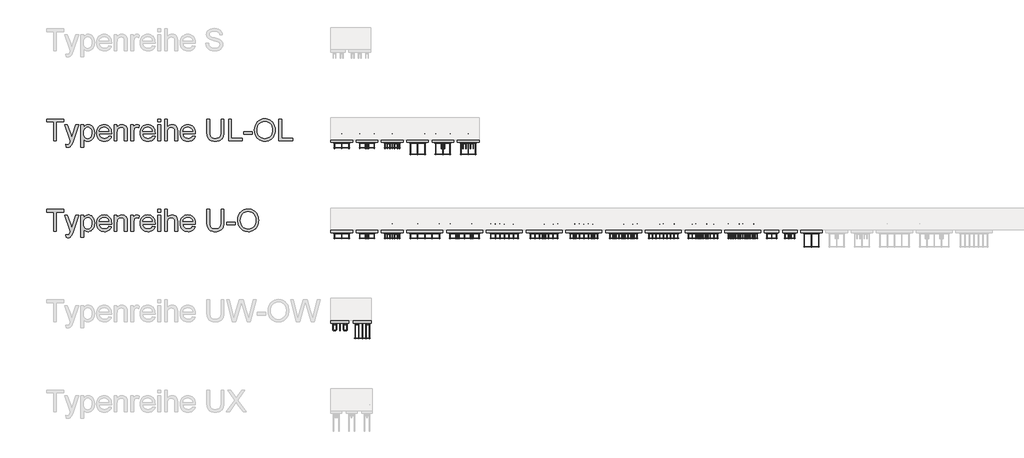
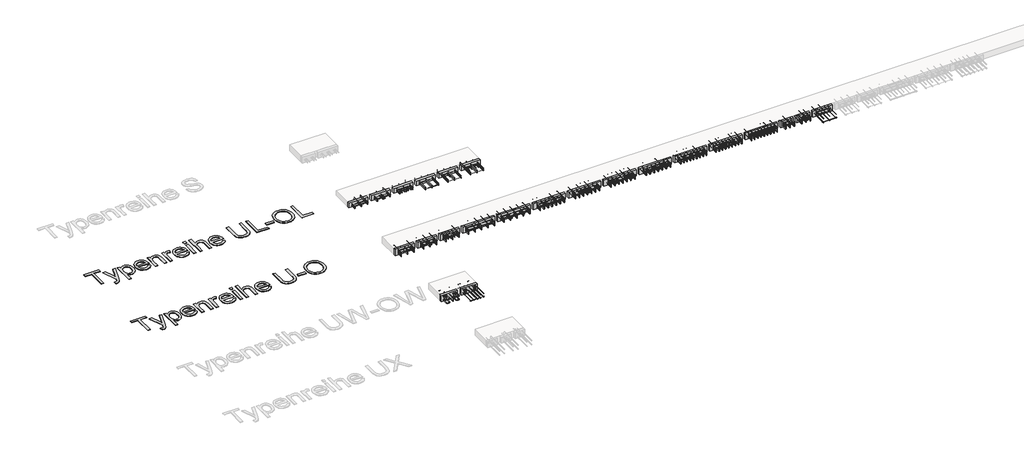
# Not in any storey, part 3 of 7: 25 proxies.
"""IFC4 building model written with IfcOpenShell, lengths in millimetres."""

from ifc_helpers import new_model, si_unit, origin, origin_with_axes, place, context, project, spatial, polyline, outline, extrude, transform, mapped, element, save
from components import generic_models_a5130629, generic_models_a2db3ab6, generic_models_825e70a4, generic_models_30aa5f48, generic_models_464901d0, generic_models_5484707d, generic_models_c893254c, generic_models_66b1b3f6, generic_models_2ea23784, generic_models_fb9e2122, generic_models_747b640e, generic_models_98fbf626, generic_models_fe60d42a, generic_models_66959c0a, generic_models_522c53e0, generic_models_25e3de61, generic_models_20547931, oa_9b1914af, ob_f7585948, oc_8440c7d6, od_33f445c9, od_3d4dff3b, ol_8fdc4615, op_9fb88730, ow_7e9b7258, ow_64ee8b05, ua_43a1cf88, ul_60ffc345, uw_d5b7e790

model = new_model("IFC4")

# Units and contexts
model_context = context("Model", 3, world=origin())
ifc_project = project(units=[si_unit("LENGTHUNIT", "METRE", prefix="MILLI")], contexts=[model_context])

# Site, building
site = spatial("IfcSite", under=ifc_project)
building = spatial("IfcBuilding", under=site)

# Proxies
placement = place(None, origin())
generic_models_shape = generic_models_a5130629(model_context)
element("IfcBuildingElementProxy", 1, Name="ACINOXplus_Typenreihe_UL-OL : OL+ S1", ObjectType="ACINOXplus_Typenreihe_UL-OL : OL+ S1", at=placement, inside=building, context=model_context, shape_type="MappedRepresentation", body=[
    mapped(generic_models_shape, transform((10889.4201887, 14552.043818, 0.0), x_axis=(0.0, -1.0, 0.0), y_axis=(1.0, 0.0, 0.0), z_axis=(0.0, 0.0, 1.0))),
])
generic_models_2_shape = generic_models_a2db3ab6(model_context)
element("IfcBuildingElementProxy", 2, Name="ACINOXplus_Typenreihe_UL-OL : OL+ S2", ObjectType="ACINOXplus_Typenreihe_UL-OL : OL+ S2", at=placement, inside=building, context=model_context, shape_type="MappedRepresentation", body=[
    mapped(generic_models_2_shape, transform((11589.4201887, 14552.043818, 0.0), x_axis=(0.0, -1.0, 0.0), y_axis=(1.0, 0.0, 0.0), z_axis=(0.0, 0.0, 1.0))),
])
generic_models_3_shape = generic_models_825e70a4(model_context)
element("IfcBuildingElementProxy", 3, Name="ACINOXplus_Typenreihe_UL-OL : UL+ S1", ObjectType="ACINOXplus_Typenreihe_UL-OL : UL+ S1", at=placement, inside=building, context=model_context, shape_type="MappedRepresentation", body=[
    mapped(generic_models_3_shape, transform((12989.4201887, 14552.043818, 0.0), x_axis=(0.0, -1.0, 0.0), y_axis=(1.0, 0.0, 0.0), z_axis=(0.0, 0.0, 1.0))),
])
generic_models_4_shape = generic_models_30aa5f48(model_context)
element("IfcBuildingElementProxy", 4, Name="ACINOXplus_Typenreihe_UL-OL : UL+ S2", ObjectType="ACINOXplus_Typenreihe_UL-OL : UL+ S2", at=placement, inside=building, context=model_context, shape_type="MappedRepresentation", body=[
    mapped(generic_models_4_shape, transform((13689.4201887, 14552.043818, 0.0), x_axis=(0.0, -1.0, 0.0), y_axis=(1.0, 0.0, 0.0), z_axis=(0.0, 0.0, 1.0))),
])
generic_models_5_shape = generic_models_464901d0(model_context)
element("IfcBuildingElementProxy", 5, Name="ACINOXplus_Typenreihe_Ux-Ox : OA+ S1", ObjectType="ACINOXplus_Typenreihe_Ux-Ox : OA+ S1", at=placement, inside=building, context=model_context, shape_type="MappedRepresentation", body=[
    mapped(generic_models_5_shape, transform((10889.4201887, 12052.043818, 0.0), x_axis=(0.0, -1.0, 0.0), y_axis=(1.0, 0.0, 0.0), z_axis=(0.0, 0.0, 1.0))),
])
generic_models_6_shape = generic_models_5484707d(model_context)
element("IfcBuildingElementProxy", 6, Name="ACINOXplus_Typenreihe_Ux-Ox : OA+ S2", ObjectType="ACINOXplus_Typenreihe_Ux-Ox : OA+ S2", at=placement, inside=building, context=model_context, shape_type="MappedRepresentation", body=[
    mapped(generic_models_6_shape, transform((11589.4201887, 12052.043818, 0.0), x_axis=(0.0, -1.0, 0.0), y_axis=(1.0, 0.0, 0.0), z_axis=(0.0, 0.0, 1.0))),
])
generic_models_7_shape = generic_models_c893254c(model_context)
element("IfcBuildingElementProxy", 7, Name="ACINOXplus_Typenreihe_Ux-Ox : OB+ S2", ObjectType="ACINOXplus_Typenreihe_Ux-Ox : OB+ S2", at=placement, inside=building, context=model_context, shape_type="MappedRepresentation", body=[
    mapped(generic_models_7_shape, transform((13590.3351296, 12052.043818, 0.0), x_axis=(0.0, -1.0, 0.0), y_axis=(1.0, 0.0, 0.0), z_axis=(0.0, 0.0, 1.0))),
])
generic_models_8_shape = generic_models_66b1b3f6(model_context)
generic_models_9_shape = generic_models_2ea23784(model_context)
element("IfcBuildingElementProxy", 8, Name="ACINOXplus_Typenreihe_Ux-Ox : OC+ S1", ObjectType="ACINOXplus_Typenreihe_Ux-Ox : OC+ S1", at=placement, inside=building, context=model_context, shape_type="MappedRepresentation", body=[
    mapped(generic_models_8_shape, transform((15790.3351296, 12052.043818, 0.0), x_axis=(0.0, -1.0, 0.0), y_axis=(1.0, 0.0, 0.0), z_axis=(0.0, 0.0, 1.0))),
    mapped(generic_models_9_shape, transform((15790.3351296, 12052.043818, 0.0), x_axis=(0.0, -1.0, 0.0), y_axis=(1.0, 0.0, 0.0), z_axis=(0.0, 0.0, 1.0))),
])
generic_models_10_shape = generic_models_fb9e2122(model_context)
generic_models_11_shape = generic_models_747b640e(model_context)
element("IfcBuildingElementProxy", 9, Name="ACINOXplus_Typenreihe_Ux-Ox : OC+ S2", ObjectType="ACINOXplus_Typenreihe_Ux-Ox : OC+ S2", at=placement, inside=building, context=model_context, shape_type="MappedRepresentation", body=[
    mapped(generic_models_10_shape, transform((16890.3351296, 12052.043818, 0.0), x_axis=(0.0, -1.0, 0.0), y_axis=(1.0, 0.0, 0.0), z_axis=(0.0, 0.0, 1.0))),
    mapped(generic_models_11_shape, transform((16890.3351296, 12052.043818, 0.0), x_axis=(0.0, -1.0, 0.0), y_axis=(1.0, 0.0, 0.0), z_axis=(0.0, 0.0, 1.0))),
])
generic_models_12_shape = generic_models_98fbf626(model_context)
element("IfcBuildingElementProxy", 10, Name="ACINOXplus_Typenreihe_Ux-Ox : OC+ S3", ObjectType="ACINOXplus_Typenreihe_Ux-Ox : OC+ S3", at=placement, inside=building, context=model_context, shape_type="MappedRepresentation", body=[
    mapped(generic_models_12_shape, transform((17990.3351296, 12052.043818, 0.0), x_axis=(0.0, -1.0, 0.0), y_axis=(1.0, 0.0, 0.0), z_axis=(0.0, 0.0, 1.0))),
    mapped(generic_models_11_shape, transform((17990.3351296, 12052.043818, 0.0), x_axis=(0.0, -1.0, 0.0), y_axis=(1.0, 0.0, 0.0), z_axis=(0.0, 0.0, 1.0))),
])
generic_models_13_shape = generic_models_fe60d42a(model_context)
generic_models_14_shape = generic_models_66959c0a(model_context)
element("IfcBuildingElementProxy", 11, Name="ACINOXplus_Typenreihe_Ux-Ox : OD+ S2", ObjectType="ACINOXplus_Typenreihe_Ux-Ox : OD+ S2", at=placement, inside=building, context=model_context, shape_type="MappedRepresentation", body=[
    mapped(generic_models_13_shape, transform((20190.3351296, 12052.043818, 0.0), x_axis=(0.0, -1.0, 0.0), y_axis=(1.0, 0.0, 0.0), z_axis=(0.0, 0.0, 1.0))),
    mapped(generic_models_14_shape, transform((20190.3351296, 12052.043818, 0.0), x_axis=(0.0, -1.0, 0.0), y_axis=(1.0, 0.0, 0.0), z_axis=(0.0, 0.0, 1.0))),
])
generic_models_15_shape = generic_models_522c53e0(model_context)
generic_models_16_shape = generic_models_25e3de61(model_context)
element("IfcBuildingElementProxy", 12, Name="ACINOXplus_Typenreihe_Ux-Ox : OD+ S4", ObjectType="ACINOXplus_Typenreihe_Ux-Ox : OD+ S4", at=placement, inside=building, context=model_context, shape_type="MappedRepresentation", body=[
    mapped(generic_models_15_shape, transform((21290.3351296, 12052.043818, 0.0), x_axis=(0.0, -1.0, 0.0), y_axis=(1.0, 0.0, 0.0), z_axis=(0.0, 0.0, 1.0))),
    mapped(generic_models_16_shape, transform((21290.3351296, 12052.043818, 0.0), x_axis=(0.0, -1.0, 0.0), y_axis=(1.0, 0.0, 0.0), z_axis=(0.0, 0.0, 1.0))),
])
generic_models_17_shape = generic_models_20547931(model_context)
element("IfcBuildingElementProxy", 13, Name="ACINOXplus_Typenreihe_Ux-Ox : OP+ S1", ObjectType="ACINOXplus_Typenreihe_Ux-Ox : OP+ S1", at=placement, inside=building, context=model_context, shape_type="MappedRepresentation", body=[
    mapped(generic_models_17_shape, transform((22590.3351296, 12052.043818, 0.0), x_axis=(0.0, -1.0, 0.0), y_axis=(1.0, 0.0, 0.0), z_axis=(0.0, 0.0, 1.0))),
])
element("IfcBuildingElementProxy", 14, Name="600mm Arial", ObjectType="600mm Arial", at=placement, inside=building, context=model_context, shape_type="SweptSolid", body=[
    extrude(outline(polyline([(2216.6089188, 14553.4767112), (2216.6089188, 15080.8723395), (2018.8355582, 15080.8723395), (2018.8355582, 15156.2145721), (2489.724512, 15156.2145721), (2489.724512, 15080.8723395), (2291.9511514, 15080.8723395), (2291.9511514, 14553.4767112), (2216.6089188, 14553.4767112)])), origin_with_axes(), (0.0, 0.0, 1.0), 10.0),
    extrude(outline(polyline([(2565.0667446, 14383.9566879), (2555.6489655, 14456.5030173), (2593.908693, 14449.8811414), (2614.0318381, 14451.9596747), (2629.6668229, 14458.1952745), (2641.843717, 14468.1464825), (2651.5925899, 14481.3718402), (2672.1939816, 14536.8484451), (2678.0800935, 14555.095392), (2517.9778492, 14996.1123278), (2597.4403602, 14996.1123278), (2682.3475247, 14750.3671551), (2711.9252371, 14652.0690859), (2741.5029495, 14738.8892368), (2828.7645587, 14996.1123278), (2907.6384585, 14996.1123278), (2753.5694789, 14542.8817098), (2713.5439178, 14444.5836407), (2693.0528907, 14413.2033065), (2669.8395368, 14391.4614806), (2642.8737866, 14378.7695517), (2611.1255704, 14374.5389088), (2589.3101681, 14376.8933535), (2565.0667446, 14383.9566879)])), origin_with_axes(), (0.0, 0.0, 1.0), 10.0),
    extrude(outline(polyline([(2970.0312449, 14383.9566879), (2970.0312449, 14996.1123278), (3045.3734775, 14996.1123278), (3045.3734775, 14922.2416232), (3069.9479948, 14958.6803348), (3097.465568, 14984.707986), (3129.544878, 15000.3245767), (3167.8046055, 15005.5301069), (3194.080577, 15003.709091), (3218.7562618, 14998.2460434), (3241.83166, 14989.140964), (3263.3067714, 14976.3938529), (3282.7125467, 14960.3358038), (3299.5799362, 14941.2979105), (3313.9089399, 14919.2801731), (3325.6995578, 14894.2825916), (3341.4816954, 14838.7691985), (3346.7424079, 14778.1790339), (3340.8011137, 14713.7445024), (3333.3744959, 14684.079418), (3322.9772311, 14656.1157879), (3309.7518733, 14630.5847774), (3293.840977, 14608.2175521), (3275.2445422, 14589.014112), (3253.9625688, 14572.974457), (3231.0389219, 14560.3239149), (3207.5174669, 14551.2878134), (3183.3982036, 14545.8661525), (3158.681132, 14544.0589322), (3124.0450422, 14548.8965804), (3093.1245605, 14563.4095251), (3066.6554509, 14585.3168979), (3045.3734775, 14612.3378305), (3045.3734775, 14383.9566879), (2970.0312449, 14383.9566879)]), holes=[polyline([(3045.3734775, 14771.2628524), (3047.410624, 14734.9528995), (3053.5220637, 14703.7197181), (3063.7077964, 14677.5633082), (3077.9678223, 14656.4836699), (3095.1341159, 14640.2600739), (3114.0386519, 14628.671791), (3134.6814303, 14621.7188213), (3157.0624512, 14619.4011648), (3179.7653689, 14621.8015948), (3200.7852264, 14629.0028848), (3220.1220237, 14641.0050349), (3237.775761, 14657.8080451), (3252.4864423, 14679.6510385), (3262.9940717, 14706.7731386), (3269.2986494, 14739.1743453), (3271.4001753, 14776.8546587), (3269.3492332, 14812.8519119), (3263.1964068, 14844.029911), (3252.9416962, 14870.388656), (3238.5851014, 14891.9281468), (3221.377421, 14908.6667776), (3202.569454, 14920.6229424), (3182.1612004, 14927.7966413), (3160.15266, 14930.1878743), (3138.2130975, 14927.64489), (3117.570319, 14920.0159371), (3098.2243246, 14907.3010157), (3080.1751142, 14889.5001256), (3064.9493982, 14866.8523903), (3054.0738867, 14839.596933), (3047.5485798, 14807.7337537), (3045.3734775, 14771.2628524)])]), origin_with_axes(), (0.0, 0.0, 1.0), 10.0),
    extrude(outline(polyline([(3741.4062124, 14685.3256183), (3815.276917, 14675.9078392), (3803.9507501, 14646.3209298), (3788.6606546, 14620.2472934), (3769.4066307, 14597.68693), (3746.1886783, 14578.6398397), (3719.2459207, 14563.5106927), (3688.8174812, 14552.704159), (3654.9033597, 14546.2202389), (3617.5035564, 14544.0589322), (3570.7549519, 14547.7883359), (3529.101513, 14558.9765471), (3492.5432397, 14577.6235657), (3461.080132, 14603.7293918), (3435.7790478, 14636.5674584), (3417.7068448, 14675.4111985), (3406.863523, 14720.2606123), (3403.2490824, 14771.1156996), (3406.9003112, 14823.6952337), (3417.8539976, 14870.0391681), (3436.1101416, 14910.1475026), (3461.6687432, 14944.0202373), (3493.0490774, 14970.9308053), (3528.7704192, 14990.1526395), (3568.8327684, 15001.6857401), (3613.2361252, 15005.5301069), (3656.2093408, 15001.6949371), (3695.0714751, 14990.1894277), (3729.822528, 14971.0135787), (3760.4624997, 14944.1673901), (3785.4738769, 14910.3682318), (3803.3391463, 14870.3334737), (3814.0583079, 14824.0631157), (3817.6313618, 14771.557158), (3817.1899034, 14751.2500718), (3478.591315, 14751.2500718), (3482.9553152, 14721.1849158), (3491.6327317, 14694.853762), (3504.6235647, 14672.2566104), (3521.927814, 14653.3934611), (3542.5889866, 14638.5218315), (3565.6505892, 14627.8992389), (3591.1126218, 14621.5256833), (3618.9750844, 14619.4011648), (3659.0742218, 14623.3375021), (3692.845789, 14635.1465142), (3720.2897858, 14655.5639649), (3741.4062124, 14685.3256183)]), holes=[polyline([(3478.591315, 14826.5923045), (3742.2891292, 14826.5923045), (3732.0987979, 14866.3971363), (3723.3340094, 14882.0505152), (3712.1228056, 14894.8712028), (3691.5765961, 14910.3222466), (3668.1976953, 14921.3587064), (3641.9861032, 14927.9805823), (3612.9418197, 14930.1878743), (3586.4497175, 14928.4266392), (3562.1557102, 14923.1429341), (3540.0597979, 14914.3367588), (3520.1619805, 14902.0081135), (3503.4647364, 14886.7272151), (3490.9705442, 14869.0642808), (3482.6794037, 14849.0193106), (3478.591315, 14826.5923045)])]), origin_with_axes(), (0.0, 0.0, 1.0), 10.0),
    extrude(outline(polyline([(3892.9735944, 14553.4767112), (3892.9735944, 14996.1123278), (3968.315827, 14996.1123278), (3968.315827, 14934.3081526), (3994.490631, 14965.4677576), (4025.9261474, 14987.7246183), (4062.6223765, 15001.0787348), (4104.579318, 15005.5301069), (4141.7170054, 15001.9432575), (4175.7276959, 14991.1827091), (4204.0913977, 14974.5912311), (4224.2881192, 14953.5115928), (4237.9917236, 14927.9989764), (4246.8760737, 14898.1085643), (4250.8491993, 14825.2679293), (4250.8491993, 14553.4767112), (4175.5069667, 14553.4767112), (4175.5069667, 14815.1143862), (4173.3364629, 14854.0730895), (4166.8249516, 14881.7746037), (4154.8136044, 14901.6218374), (4136.1435932, 14917.0176989), (4112.2128694, 14926.8953304), (4084.4193847, 14930.1878743), (4061.5417231, 14928.3392673), (4040.2919394, 14922.7934462), (4020.6700334, 14913.5504111), (4002.6760053, 14900.6101619), (3987.6434273, 14882.5011707), (3976.9058716, 14857.7519094), (3970.4633381, 14826.3623782), (3968.315827, 14788.332577), (3968.315827, 14553.4767112), (3892.9735944, 14553.4767112)])), origin_with_axes(), (0.0, 0.0, 1.0), 10.0),
    extrude(outline(polyline([(4354.4447691, 14553.4767112), (4354.4447691, 14996.1123278), (4420.3692227, 14996.1123278), (4420.3692227, 14930.6293327), (4444.7230107, 14968.5947546), (4467.1638125, 14990.9619799), (4489.6781906, 15001.8880752), (4514.2527078, 15005.5301069), (4551.7766713, 14999.7175714), (4589.889246, 14982.2799648), (4564.7261176, 14914.7368305), (4538.2386139, 14926.3251133), (4511.7511103, 14930.1878743), (4489.2551263, 14926.4722661), (4469.1503752, 14915.3254417), (4452.9083851, 14897.5935295), (4442.000684, 14874.1226582), (4432.8404223, 14832.036958), (4429.7870017, 14786.125285), (4429.7870017, 14553.4767112), (4354.4447691, 14553.4767112)])), origin_with_axes(), (0.0, 0.0, 1.0), 10.0),
    extrude(outline(polyline([(4946.8819342, 14685.3256183), (5020.7526388, 14675.9078392), (5009.4264719, 14646.3209298), (4994.1363764, 14620.2472934), (4974.8823525, 14597.68693), (4951.6644001, 14578.6398397), (4924.7216425, 14563.5106927), (4894.293203, 14552.704159), (4860.3790815, 14546.2202389), (4822.9792782, 14544.0589322), (4776.2306737, 14547.7883359), (4734.5772347, 14558.9765471), (4698.0189615, 14577.6235657), (4666.5558538, 14603.7293918), (4641.2547696, 14636.5674584), (4623.1825666, 14675.4111985), (4612.3392448, 14720.2606123), (4608.7248042, 14771.1156996), (4612.376033, 14823.6952337), (4623.3297194, 14870.0391681), (4641.5858634, 14910.1475026), (4667.144465, 14944.0202373), (4698.5247992, 14970.9308053), (4734.246141, 14990.1526395), (4774.3084902, 15001.6857401), (4818.711847, 15005.5301069), (4861.6850626, 15001.6949371), (4900.5471969, 14990.1894277), (4935.2982498, 14971.0135787), (4965.9382215, 14944.1673901), (4990.9495987, 14910.3682318), (5008.8148681, 14870.3334737), (5019.5340297, 14824.0631157), (5023.1070836, 14771.557158), (5022.6656252, 14751.2500718), (4684.0670368, 14751.2500718), (4688.431037, 14721.1849158), (4697.1084535, 14694.853762), (4710.0992865, 14672.2566104), (4727.4035358, 14653.3934611), (4748.0647084, 14638.5218315), (4771.126311, 14627.8992389), (4796.5883436, 14621.5256833), (4824.4508062, 14619.4011648), (4864.5499436, 14623.3375021), (4898.3215108, 14635.1465142), (4925.7655076, 14655.5639649), (4946.8819342, 14685.3256183)]), holes=[polyline([(4684.0670368, 14826.5923045), (4947.764851, 14826.5923045), (4937.5745197, 14866.3971363), (4928.8097312, 14882.0505152), (4917.5985273, 14894.8712028), (4897.0523179, 14910.3222466), (4873.6734171, 14921.3587064), (4847.461825, 14927.9805823), (4818.4175414, 14930.1878743), (4791.9254393, 14928.4266392), (4767.631432, 14923.1429341), (4745.5355197, 14914.3367588), (4725.6377023, 14902.0081135), (4708.9404582, 14886.7272151), (4696.4462659, 14869.0642808), (4688.1551255, 14849.0193106), (4684.0670368, 14826.5923045)])]), origin_with_axes(), (0.0, 0.0, 1.0), 10.0),
    extrude(outline(polyline([(5098.4493162, 15080.8723395), (5098.4493162, 15156.2145721), (5173.7915488, 15156.2145721), (5173.7915488, 15080.8723395), (5098.4493162, 15080.8723395)])), origin_with_axes(), (0.0, 0.0, 1.0), 10.0),
    extrude(outline(polyline([(5098.4493162, 14553.4767112), (5098.4493162, 14996.1123278), (5173.7915488, 14996.1123278), (5173.7915488, 14553.4767112), (5098.4493162, 14553.4767112)])), origin_with_axes(), (0.0, 0.0, 1.0), 10.0),
    extrude(outline(polyline([(5286.8048977, 14553.4767112), (5286.8048977, 15156.2145721), (5362.1471303, 15156.2145721), (5362.1471303, 14934.6024582), (5389.8210534, 14965.6333045), (5420.8978849, 14987.7981947), (5455.3776249, 15001.0971289), (5493.2602734, 15005.5301069), (5538.7672762, 15000.6924587), (5577.8731323, 14986.179514), (5608.6648553, 14963.131707), (5629.2294588, 14932.6894719), (5640.8177417, 14890.861289), (5644.6805026, 14833.6556388), (5644.6805026, 14553.4767112), (5569.33827, 14553.4767112), (5569.33827, 14825.8565405), (5567.8391509, 14851.2955804), (5563.3417935, 14873.0190122), (5555.8461978, 14891.0268359), (5545.3523639, 14905.3190514), (5532.1086121, 14916.1991614), (5516.3632627, 14923.9706686), (5498.1163157, 14928.6335729), (5477.3677712, 14930.1878743), (5445.5275845, 14925.9940195), (5415.6371724, 14913.4124553), (5390.8787141, 14893.6571922), (5374.434389, 14867.9422407), (5365.218945, 14833.7660034), (5362.1471303, 14788.6268826), (5362.1471303, 14553.4767112), (5286.8048977, 14553.4767112)])), origin_with_axes(), (0.0, 0.0, 1.0), 10.0),
    extrude(outline(polyline([(6058.1798652, 14685.3256183), (6132.0505698, 14675.9078392), (6120.7244029, 14646.3209298), (6105.4343075, 14620.2472934), (6086.1802836, 14597.68693), (6062.9623311, 14578.6398397), (6036.0195735, 14563.5106927), (6005.591134, 14552.704159), (5971.6770126, 14546.2202389), (5934.2772092, 14544.0589322), (5887.5286047, 14547.7883359), (5845.8751658, 14558.9765471), (5809.3168925, 14577.6235657), (5777.8537849, 14603.7293918), (5752.5527007, 14636.5674584), (5734.4804976, 14675.4111985), (5723.6371758, 14720.2606123), (5720.0227352, 14771.1156996), (5723.673964, 14823.6952337), (5734.6276504, 14870.0391681), (5752.8837944, 14910.1475026), (5778.4423961, 14944.0202373), (5809.8227303, 14970.9308053), (5845.544072, 14990.1526395), (5885.6064213, 15001.6857401), (5930.0097781, 15005.5301069), (5972.9829936, 15001.6949371), (6011.8451279, 14990.1894277), (6046.5961809, 14971.0135787), (6077.2361525, 14944.1673901), (6102.2475297, 14910.3682318), (6120.1127991, 14870.3334737), (6130.8319607, 14824.0631157), (6134.4050146, 14771.557158), (6133.9635562, 14751.2500718), (5795.3649678, 14751.2500718), (5799.728968, 14721.1849158), (5808.4063846, 14694.853762), (5821.3972175, 14672.2566104), (5838.7014669, 14653.3934611), (5859.3626394, 14638.5218315), (5882.424242, 14627.8992389), (5907.8862746, 14621.5256833), (5935.7487372, 14619.4011648), (5975.8478747, 14623.3375021), (6009.6194418, 14635.1465142), (6037.0634387, 14655.5639649), (6058.1798652, 14685.3256183)]), holes=[polyline([(5795.3649678, 14826.5923045), (6059.062782, 14826.5923045), (6048.8724507, 14866.3971363), (6040.1076622, 14882.0505152), (6028.8964584, 14894.8712028), (6008.3502489, 14910.3222466), (5984.9713482, 14921.3587064), (5958.759756, 14927.9805823), (5929.7154725, 14930.1878743), (5903.2233703, 14928.4266392), (5878.929363, 14923.1429341), (5856.8334507, 14914.3367588), (5836.9356333, 14902.0081135), (5820.2383892, 14886.7272151), (5807.744197, 14869.0642808), (5799.4530565, 14849.0193106), (5795.3649678, 14826.5923045)])]), origin_with_axes(), (0.0, 0.0, 1.0), 10.0),
    extrude(outline(polyline([(6850.1562244, 15156.2145721), (6925.498457, 15156.2145721), (6925.498457, 14808.4925103), (6920.3848973, 14727.0618307), (6913.9929476, 14693.3684384), (6905.0442181, 14664.3563446), (6892.7661565, 14638.9265017), (6876.3862107, 14615.9798622), (6855.9043806, 14595.5164262), (6831.3206663, 14577.5361937), (6802.6074765, 14562.8898918), (6769.7372203, 14552.4282475), (6732.7098975, 14546.151261), (6691.5255081, 14544.0589322), (6651.3573927, 14545.879948), (6615.0244472, 14551.3429957), (6582.5266714, 14560.448075), (6553.8640655, 14573.1951862), (6529.0320308, 14589.3957895), (6508.0259689, 14608.8613456), (6490.8458797, 14631.5918544), (6477.4917633, 14657.5873159), (6467.4807745, 14687.7398439), (6460.3300682, 14722.9415523), (6456.0396445, 14763.1924411), (6454.6095032, 14808.4925103), (6454.6095032, 15156.2145721), (6529.9517358, 15156.2145721), (6529.9517358, 14811.1412607), (6533.667344, 14743.4325794), (6544.8141684, 14696.2885018), (6553.5789569, 14678.910676), (6565.0108899, 14663.6389747), (6579.1099674, 14650.4733978), (6595.8761893, 14639.4139453), (6636.1224796, 14624.4043599), (6684.4621738, 14619.4011648), (6725.986854, 14621.8751712), (6761.0919934, 14629.2971904), (6789.777592, 14641.6672225), (6812.0436497, 14658.9852674), (6828.7179011, 14683.3390555), (6840.6280807, 14716.8163171), (6847.7741885, 14759.4170521), (6850.1562244, 14811.1412607), (6850.1562244, 15156.2145721)])), origin_with_axes(), (0.0, 0.0, 1.0), 10.0),
    extrude(outline(polyline([(7057.3473641, 14553.4767112), (7057.3473641, 15156.2145721), (7132.6895967, 15156.2145721), (7132.6895967, 14628.8189438), (7434.0585272, 14628.8189438), (7434.0585272, 14553.4767112), (7057.3473641, 14553.4767112)])), origin_with_axes(), (0.0, 0.0, 1.0), 10.0),
    extrude(outline(polyline([(7471.7296435, 14732.4145137), (7471.7296435, 14807.7567463), (7707.1741204, 14807.7567463), (7707.1741204, 14732.4145137), (7471.7296435, 14732.4145137)])), origin_with_axes(), (0.0, 0.0, 1.0), 10.0),
    extrude(outline(polyline([(7773.0985739, 14846.8993906), (7778.1201631, 14917.597113), (7793.1849308, 14980.1830374), (7818.292877, 15034.6571639), (7834.613042, 15058.8523028), (7853.4440017, 15081.0194923), (7896.5321803, 15118.0376181), (7945.4512887, 15144.4791365), (8000.2013266, 15160.3440475), (8060.7822941, 15165.6323512), (8101.3320871, 15163.1491477), (8139.8401349, 15155.6995373), (8176.3064377, 15143.28352), (8210.7309954, 15125.9010957), (8242.1481178, 15104.0764964), (8269.5921146, 15078.3339538), (8293.0629859, 15048.6734679), (8312.5607316, 15015.0950388), (8327.8830167, 14978.3620216), (8338.8275061, 14939.2377714), (8345.3941997, 14897.7222882), (8347.5830976, 14853.8155721), (8345.2792366, 14809.3294418), (8338.3676536, 14767.2529386), (8326.8483486, 14727.5860625), (8310.7213217, 14690.3288134), (8290.3682503, 14656.4652758), (8266.170812, 14626.9795339), (8238.129007, 14601.8715877), (8206.242835, 14581.1414373), (8171.7676936, 14564.9178413), (8135.9589799, 14553.3295584), (8098.8166939, 14546.3765887), (8060.3408357, 14544.0589322), (8019.08287, 14546.6203105), (7980.0689844, 14554.3044457), (7943.299179, 14567.1113377), (7908.7734537, 14585.0409864), (7877.3931195, 14607.3990147), (7850.0594873, 14633.4910452), (7826.772557, 14663.3170779), (7807.5323287, 14696.877113), (7792.467561, 14732.8237824), (7781.7070126, 14769.8097185), (7775.2506836, 14807.8349212), (7773.0985739, 14846.8993906)]), holes=[polyline([(7848.4408065, 14846.1636266), (7852.2069984, 14796.2144487), (7863.5055742, 14751.8754712), (7882.3365339, 14713.1466942), (7908.6998773, 14680.0281176), (7940.7469976, 14653.5038257), (7976.6292877, 14634.557903), (8016.3467476, 14623.1903493), (8059.8993774, 14619.4011648), (8104.1969681, 14623.2271375), (8144.3834775, 14634.7050558), (8180.4589057, 14653.8349195), (8212.4232526, 14680.6167288), (8238.593458, 14714.4342812), (8257.2864619, 14754.6713744), (8268.5022642, 14801.3280084), (8272.240865, 14854.4041833), (8270.6405783, 14888.8839233), (8265.8397183, 14921.101189), (8257.8382849, 14951.0559805), (8246.6362781, 14978.7482977), (8232.3578582, 15003.8148571), (8215.1271852, 15025.8923753), (8194.9442593, 15044.9808524), (8171.8090803, 15061.0802882), (8146.4390182, 15073.859589), (8119.5514429, 15082.987661), (8091.1463543, 15088.4645042), (8061.2237525, 15090.2901186), (8019.1840375, 15086.772247), (7980.179349, 15076.2186323), (7944.2096869, 15058.6292744), (7911.2750513, 15034.0041733), (7883.7850692, 15001.1569097), (7864.1493677, 14958.901064), (7852.3679468, 14907.2366363), (7848.4408065, 14846.1636266)])]), origin_with_axes(), (0.0, 0.0, 1.0), 10.0),
    extrude(outline(polyline([(8451.1786674, 14553.4767112), (8451.1786674, 15156.2145721), (8526.5209, 15156.2145721), (8526.5209, 14628.8189438), (8827.8898305, 14628.8189438), (8827.8898305, 14553.4767112), (8451.1786674, 14553.4767112)])), origin_with_axes(), (0.0, 0.0, 1.0), 10.0),
])
element("IfcBuildingElementProxy", 15, Name="600mm Arial", ObjectType="600mm Arial", at=placement, inside=building, context=model_context, shape_type="SweptSolid", body=[
    extrude(outline(polyline([(2216.6089188, 12053.4767112), (2216.6089188, 12580.8723395), (2018.8355582, 12580.8723395), (2018.8355582, 12656.2145721), (2489.724512, 12656.2145721), (2489.724512, 12580.8723395), (2291.9511514, 12580.8723395), (2291.9511514, 12053.4767112), (2216.6089188, 12053.4767112)])), origin_with_axes(), (0.0, 0.0, 1.0), 10.0),
    extrude(outline(polyline([(2565.0667446, 11883.9566879), (2555.6489655, 11956.5030173), (2593.908693, 11949.8811414), (2614.0318381, 11951.9596747), (2629.6668229, 11958.1952745), (2641.843717, 11968.1464825), (2651.5925899, 11981.3718402), (2672.1939816, 12036.8484451), (2678.0800935, 12055.095392), (2517.9778492, 12496.1123278), (2597.4403602, 12496.1123278), (2682.3475247, 12250.3671551), (2711.9252371, 12152.0690859), (2741.5029495, 12238.8892368), (2828.7645587, 12496.1123278), (2907.6384585, 12496.1123278), (2753.5694789, 12042.8817098), (2713.5439178, 11944.5836407), (2693.0528907, 11913.2033065), (2669.8395368, 11891.4614806), (2642.8737866, 11878.7695517), (2611.1255704, 11874.5389088), (2589.3101681, 11876.8933535), (2565.0667446, 11883.9566879)])), origin_with_axes(), (0.0, 0.0, 1.0), 10.0),
    extrude(outline(polyline([(2970.0312449, 11883.9566879), (2970.0312449, 12496.1123278), (3045.3734775, 12496.1123278), (3045.3734775, 12422.2416232), (3069.9479948, 12458.6803348), (3097.465568, 12484.707986), (3129.544878, 12500.3245767), (3167.8046055, 12505.5301069), (3194.080577, 12503.709091), (3218.7562618, 12498.2460434), (3241.83166, 12489.140964), (3263.3067714, 12476.3938529), (3282.7125467, 12460.3358038), (3299.5799362, 12441.2979105), (3313.9089399, 12419.2801731), (3325.6995578, 12394.2825916), (3341.4816954, 12338.7691985), (3346.7424079, 12278.1790339), (3340.8011137, 12213.7445024), (3333.3744959, 12184.079418), (3322.9772311, 12156.1157879), (3309.7518733, 12130.5847774), (3293.840977, 12108.2175521), (3275.2445422, 12089.014112), (3253.9625688, 12072.974457), (3231.0389219, 12060.3239149), (3207.5174669, 12051.2878134), (3183.3982036, 12045.8661525), (3158.681132, 12044.0589322), (3124.0450422, 12048.8965804), (3093.1245605, 12063.4095251), (3066.6554509, 12085.3168979), (3045.3734775, 12112.3378305), (3045.3734775, 11883.9566879), (2970.0312449, 11883.9566879)]), holes=[polyline([(3045.3734775, 12271.2628524), (3047.410624, 12234.9528995), (3053.5220637, 12203.7197181), (3063.7077964, 12177.5633082), (3077.9678223, 12156.4836699), (3095.1341159, 12140.2600739), (3114.0386519, 12128.671791), (3134.6814303, 12121.7188213), (3157.0624512, 12119.4011648), (3179.7653689, 12121.8015948), (3200.7852264, 12129.0028848), (3220.1220237, 12141.0050349), (3237.775761, 12157.8080451), (3252.4864423, 12179.6510385), (3262.9940717, 12206.7731386), (3269.2986494, 12239.1743453), (3271.4001753, 12276.8546587), (3269.3492332, 12312.8519119), (3263.1964068, 12344.029911), (3252.9416962, 12370.388656), (3238.5851014, 12391.9281468), (3221.377421, 12408.6667776), (3202.569454, 12420.6229424), (3182.1612004, 12427.7966413), (3160.15266, 12430.1878743), (3138.2130975, 12427.64489), (3117.570319, 12420.0159371), (3098.2243246, 12407.3010157), (3080.1751142, 12389.5001256), (3064.9493982, 12366.8523903), (3054.0738867, 12339.596933), (3047.5485798, 12307.7337537), (3045.3734775, 12271.2628524)])]), origin_with_axes(), (0.0, 0.0, 1.0), 10.0),
    extrude(outline(polyline([(3741.4062124, 12185.3256183), (3815.276917, 12175.9078392), (3803.9507501, 12146.3209298), (3788.6606546, 12120.2472934), (3769.4066307, 12097.68693), (3746.1886783, 12078.6398397), (3719.2459207, 12063.5106927), (3688.8174812, 12052.704159), (3654.9033597, 12046.2202389), (3617.5035564, 12044.0589322), (3570.7549519, 12047.7883359), (3529.101513, 12058.9765471), (3492.5432397, 12077.6235657), (3461.080132, 12103.7293918), (3435.7790478, 12136.5674584), (3417.7068448, 12175.4111985), (3406.863523, 12220.2606123), (3403.2490824, 12271.1156996), (3406.9003112, 12323.6952337), (3417.8539976, 12370.0391681), (3436.1101416, 12410.1475026), (3461.6687432, 12444.0202373), (3493.0490774, 12470.9308053), (3528.7704192, 12490.1526395), (3568.8327684, 12501.6857401), (3613.2361252, 12505.5301069), (3656.2093408, 12501.6949371), (3695.0714751, 12490.1894277), (3729.822528, 12471.0135787), (3760.4624997, 12444.1673901), (3785.4738769, 12410.3682318), (3803.3391463, 12370.3334737), (3814.0583079, 12324.0631157), (3817.6313618, 12271.557158), (3817.1899034, 12251.2500718), (3478.591315, 12251.2500718), (3482.9553152, 12221.1849158), (3491.6327317, 12194.853762), (3504.6235647, 12172.2566104), (3521.927814, 12153.3934611), (3542.5889866, 12138.5218315), (3565.6505892, 12127.8992389), (3591.1126218, 12121.5256833), (3618.9750844, 12119.4011648), (3659.0742218, 12123.3375021), (3692.845789, 12135.1465142), (3720.2897858, 12155.5639649), (3741.4062124, 12185.3256183)]), holes=[polyline([(3478.591315, 12326.5923045), (3742.2891292, 12326.5923045), (3732.0987979, 12366.3971363), (3723.3340094, 12382.0505152), (3712.1228056, 12394.8712028), (3691.5765961, 12410.3222466), (3668.1976953, 12421.3587064), (3641.9861032, 12427.9805823), (3612.9418197, 12430.1878743), (3586.4497175, 12428.4266392), (3562.1557102, 12423.1429341), (3540.0597979, 12414.3367588), (3520.1619805, 12402.0081135), (3503.4647364, 12386.7272151), (3490.9705442, 12369.0642808), (3482.6794037, 12349.0193106), (3478.591315, 12326.5923045)])]), origin_with_axes(), (0.0, 0.0, 1.0), 10.0),
    extrude(outline(polyline([(3892.9735944, 12053.4767112), (3892.9735944, 12496.1123278), (3968.315827, 12496.1123278), (3968.315827, 12434.3081526), (3994.490631, 12465.4677576), (4025.9261474, 12487.7246183), (4062.6223765, 12501.0787348), (4104.579318, 12505.5301069), (4141.7170054, 12501.9432575), (4175.7276959, 12491.1827091), (4204.0913977, 12474.5912311), (4224.2881192, 12453.5115928), (4237.9917236, 12427.9989764), (4246.8760737, 12398.1085643), (4250.8491993, 12325.2679293), (4250.8491993, 12053.4767112), (4175.5069667, 12053.4767112), (4175.5069667, 12315.1143862), (4173.3364629, 12354.0730895), (4166.8249516, 12381.7746037), (4154.8136044, 12401.6218374), (4136.1435932, 12417.0176989), (4112.2128694, 12426.8953304), (4084.4193847, 12430.1878743), (4061.5417231, 12428.3392673), (4040.2919394, 12422.7934462), (4020.6700334, 12413.5504111), (4002.6760053, 12400.6101619), (3987.6434273, 12382.5011707), (3976.9058716, 12357.7519094), (3970.4633381, 12326.3623782), (3968.315827, 12288.332577), (3968.315827, 12053.4767112), (3892.9735944, 12053.4767112)])), origin_with_axes(), (0.0, 0.0, 1.0), 10.0),
    extrude(outline(polyline([(4354.4447691, 12053.4767112), (4354.4447691, 12496.1123278), (4420.3692227, 12496.1123278), (4420.3692227, 12430.6293327), (4444.7230107, 12468.5947546), (4467.1638125, 12490.9619799), (4489.6781906, 12501.8880752), (4514.2527078, 12505.5301069), (4551.7766713, 12499.7175714), (4589.889246, 12482.2799648), (4564.7261176, 12414.7368305), (4538.2386139, 12426.3251133), (4511.7511103, 12430.1878743), (4489.2551263, 12426.4722661), (4469.1503752, 12415.3254417), (4452.9083851, 12397.5935295), (4442.000684, 12374.1226582), (4432.8404223, 12332.036958), (4429.7870017, 12286.125285), (4429.7870017, 12053.4767112), (4354.4447691, 12053.4767112)])), origin_with_axes(), (0.0, 0.0, 1.0), 10.0),
    extrude(outline(polyline([(4946.8819342, 12185.3256183), (5020.7526388, 12175.9078392), (5009.4264719, 12146.3209298), (4994.1363764, 12120.2472934), (4974.8823525, 12097.68693), (4951.6644001, 12078.6398397), (4924.7216425, 12063.5106927), (4894.293203, 12052.704159), (4860.3790815, 12046.2202389), (4822.9792782, 12044.0589322), (4776.2306737, 12047.7883359), (4734.5772347, 12058.9765471), (4698.0189615, 12077.6235657), (4666.5558538, 12103.7293918), (4641.2547696, 12136.5674584), (4623.1825666, 12175.4111985), (4612.3392448, 12220.2606123), (4608.7248042, 12271.1156996), (4612.376033, 12323.6952337), (4623.3297194, 12370.0391681), (4641.5858634, 12410.1475026), (4667.144465, 12444.0202373), (4698.5247992, 12470.9308053), (4734.246141, 12490.1526395), (4774.3084902, 12501.6857401), (4818.711847, 12505.5301069), (4861.6850626, 12501.6949371), (4900.5471969, 12490.1894277), (4935.2982498, 12471.0135787), (4965.9382215, 12444.1673901), (4990.9495987, 12410.3682318), (5008.8148681, 12370.3334737), (5019.5340297, 12324.0631157), (5023.1070836, 12271.557158), (5022.6656252, 12251.2500718), (4684.0670368, 12251.2500718), (4688.431037, 12221.1849158), (4697.1084535, 12194.853762), (4710.0992865, 12172.2566104), (4727.4035358, 12153.3934611), (4748.0647084, 12138.5218315), (4771.126311, 12127.8992389), (4796.5883436, 12121.5256833), (4824.4508062, 12119.4011648), (4864.5499436, 12123.3375021), (4898.3215108, 12135.1465142), (4925.7655076, 12155.5639649), (4946.8819342, 12185.3256183)]), holes=[polyline([(4684.0670368, 12326.5923045), (4947.764851, 12326.5923045), (4937.5745197, 12366.3971363), (4928.8097312, 12382.0505152), (4917.5985273, 12394.8712028), (4897.0523179, 12410.3222466), (4873.6734171, 12421.3587064), (4847.461825, 12427.9805823), (4818.4175414, 12430.1878743), (4791.9254393, 12428.4266392), (4767.631432, 12423.1429341), (4745.5355197, 12414.3367588), (4725.6377023, 12402.0081135), (4708.9404582, 12386.7272151), (4696.4462659, 12369.0642808), (4688.1551255, 12349.0193106), (4684.0670368, 12326.5923045)])]), origin_with_axes(), (0.0, 0.0, 1.0), 10.0),
    extrude(outline(polyline([(5098.4493162, 12580.8723395), (5098.4493162, 12656.2145721), (5173.7915488, 12656.2145721), (5173.7915488, 12580.8723395), (5098.4493162, 12580.8723395)])), origin_with_axes(), (0.0, 0.0, 1.0), 10.0),
    extrude(outline(polyline([(5098.4493162, 12053.4767112), (5098.4493162, 12496.1123278), (5173.7915488, 12496.1123278), (5173.7915488, 12053.4767112), (5098.4493162, 12053.4767112)])), origin_with_axes(), (0.0, 0.0, 1.0), 10.0),
    extrude(outline(polyline([(5286.8048977, 12053.4767112), (5286.8048977, 12656.2145721), (5362.1471303, 12656.2145721), (5362.1471303, 12434.6024582), (5389.8210534, 12465.6333045), (5420.8978849, 12487.7981947), (5455.3776249, 12501.0971289), (5493.2602734, 12505.5301069), (5538.7672762, 12500.6924587), (5577.8731323, 12486.179514), (5608.6648553, 12463.131707), (5629.2294588, 12432.6894719), (5640.8177417, 12390.861289), (5644.6805026, 12333.6556388), (5644.6805026, 12053.4767112), (5569.33827, 12053.4767112), (5569.33827, 12325.8565405), (5567.8391509, 12351.2955804), (5563.3417935, 12373.0190122), (5555.8461978, 12391.0268359), (5545.3523639, 12405.3190514), (5532.1086121, 12416.1991614), (5516.3632627, 12423.9706686), (5498.1163157, 12428.6335729), (5477.3677712, 12430.1878743), (5445.5275845, 12425.9940195), (5415.6371724, 12413.4124553), (5390.8787141, 12393.6571922), (5374.434389, 12367.9422407), (5365.218945, 12333.7660034), (5362.1471303, 12288.6268826), (5362.1471303, 12053.4767112), (5286.8048977, 12053.4767112)])), origin_with_axes(), (0.0, 0.0, 1.0), 10.0),
    extrude(outline(polyline([(6058.1798652, 12185.3256183), (6132.0505698, 12175.9078392), (6120.7244029, 12146.3209298), (6105.4343075, 12120.2472934), (6086.1802836, 12097.68693), (6062.9623311, 12078.6398397), (6036.0195735, 12063.5106927), (6005.591134, 12052.704159), (5971.6770126, 12046.2202389), (5934.2772092, 12044.0589322), (5887.5286047, 12047.7883359), (5845.8751658, 12058.9765471), (5809.3168925, 12077.6235657), (5777.8537849, 12103.7293918), (5752.5527007, 12136.5674584), (5734.4804976, 12175.4111985), (5723.6371758, 12220.2606123), (5720.0227352, 12271.1156996), (5723.673964, 12323.6952337), (5734.6276504, 12370.0391681), (5752.8837944, 12410.1475026), (5778.4423961, 12444.0202373), (5809.8227303, 12470.9308053), (5845.544072, 12490.1526395), (5885.6064213, 12501.6857401), (5930.0097781, 12505.5301069), (5972.9829936, 12501.6949371), (6011.8451279, 12490.1894277), (6046.5961809, 12471.0135787), (6077.2361525, 12444.1673901), (6102.2475297, 12410.3682318), (6120.1127991, 12370.3334737), (6130.8319607, 12324.0631157), (6134.4050146, 12271.557158), (6133.9635562, 12251.2500718), (5795.3649678, 12251.2500718), (5799.728968, 12221.1849158), (5808.4063846, 12194.853762), (5821.3972175, 12172.2566104), (5838.7014669, 12153.3934611), (5859.3626394, 12138.5218315), (5882.424242, 12127.8992389), (5907.8862746, 12121.5256833), (5935.7487372, 12119.4011648), (5975.8478747, 12123.3375021), (6009.6194418, 12135.1465142), (6037.0634387, 12155.5639649), (6058.1798652, 12185.3256183)]), holes=[polyline([(5795.3649678, 12326.5923045), (6059.062782, 12326.5923045), (6048.8724507, 12366.3971363), (6040.1076622, 12382.0505152), (6028.8964584, 12394.8712028), (6008.3502489, 12410.3222466), (5984.9713482, 12421.3587064), (5958.759756, 12427.9805823), (5929.7154725, 12430.1878743), (5903.2233703, 12428.4266392), (5878.929363, 12423.1429341), (5856.8334507, 12414.3367588), (5836.9356333, 12402.0081135), (5820.2383892, 12386.7272151), (5807.744197, 12369.0642808), (5799.4530565, 12349.0193106), (5795.3649678, 12326.5923045)])]), origin_with_axes(), (0.0, 0.0, 1.0), 10.0),
    extrude(outline(polyline([(6850.1562244, 12656.2145721), (6925.498457, 12656.2145721), (6925.498457, 12308.4925103), (6920.3848973, 12227.0618307), (6913.9929476, 12193.3684384), (6905.0442181, 12164.3563446), (6892.7661565, 12138.9265017), (6876.3862107, 12115.9798622), (6855.9043806, 12095.5164262), (6831.3206663, 12077.5361937), (6802.6074765, 12062.8898918), (6769.7372203, 12052.4282475), (6732.7098975, 12046.151261), (6691.5255081, 12044.0589322), (6651.3573927, 12045.879948), (6615.0244472, 12051.3429957), (6582.5266714, 12060.448075), (6553.8640655, 12073.1951862), (6529.0320308, 12089.3957895), (6508.0259689, 12108.8613456), (6490.8458797, 12131.5918544), (6477.4917633, 12157.5873159), (6467.4807745, 12187.7398439), (6460.3300682, 12222.9415523), (6456.0396445, 12263.1924411), (6454.6095032, 12308.4925103), (6454.6095032, 12656.2145721), (6529.9517358, 12656.2145721), (6529.9517358, 12311.1412607), (6533.667344, 12243.4325794), (6544.8141684, 12196.2885018), (6553.5789569, 12178.910676), (6565.0108899, 12163.6389747), (6579.1099674, 12150.4733978), (6595.8761893, 12139.4139453), (6636.1224796, 12124.4043599), (6684.4621738, 12119.4011648), (6725.986854, 12121.8751712), (6761.0919934, 12129.2971904), (6789.777592, 12141.6672225), (6812.0436497, 12158.9852674), (6828.7179011, 12183.3390555), (6840.6280807, 12216.8163171), (6847.7741885, 12259.4170521), (6850.1562244, 12311.1412607), (6850.1562244, 12656.2145721)])), origin_with_axes(), (0.0, 0.0, 1.0), 10.0),
    extrude(outline(polyline([(7010.2584687, 12232.4145137), (7010.2584687, 12307.7567463), (7245.7029456, 12307.7567463), (7245.7029456, 12232.4145137), (7010.2584687, 12232.4145137)])), origin_with_axes(), (0.0, 0.0, 1.0), 10.0),
    extrude(outline(polyline([(7311.6273992, 12346.8993906), (7316.6489884, 12417.597113), (7331.7137561, 12480.1830374), (7356.8217023, 12534.6571639), (7373.1418673, 12558.8523028), (7391.9728269, 12581.0194923), (7435.0610056, 12618.0376181), (7483.9801139, 12644.4791365), (7538.7301518, 12660.3440475), (7599.3111194, 12665.6323512), (7639.8609123, 12663.1491477), (7678.3689602, 12655.6995373), (7714.8352629, 12643.28352), (7749.2598206, 12625.9010957), (7780.676943, 12604.0764964), (7808.1209399, 12578.3339538), (7831.5918111, 12548.6734679), (7851.0895569, 12515.0950388), (7866.411842, 12478.3620216), (7877.3563313, 12439.2377714), (7883.923025, 12397.7222882), (7886.1119228, 12353.8155721), (7883.8080618, 12309.3294418), (7876.8964788, 12267.2529386), (7865.3771739, 12227.5860625), (7849.2501469, 12190.3288134), (7828.8970755, 12156.4652758), (7804.6996373, 12126.9795339), (7776.6578322, 12101.8715877), (7744.7716603, 12081.1414373), (7710.2965188, 12064.9178413), (7674.4878051, 12053.3295584), (7637.3455192, 12046.3765887), (7598.869661, 12044.0589322), (7557.6116952, 12046.6203105), (7518.5978096, 12054.3044457), (7481.8280042, 12067.1113377), (7447.302279, 12085.0409864), (7415.9219448, 12107.3990147), (7388.5883126, 12133.4910452), (7365.3013823, 12163.3170779), (7346.0611539, 12196.877113), (7330.9963862, 12232.8237824), (7320.2358378, 12269.8097185), (7313.7795088, 12307.8349212), (7311.6273992, 12346.8993906)]), holes=[polyline([(7386.9696318, 12346.1636266), (7390.7358237, 12296.2144487), (7402.0343995, 12251.8754712), (7420.8653591, 12213.1466942), (7447.2287026, 12180.0281176), (7479.2758229, 12153.5038257), (7515.158113, 12134.557903), (7554.8755729, 12123.1903493), (7598.4282026, 12119.4011648), (7642.7257933, 12123.2271375), (7682.9123028, 12134.7050558), (7718.9877309, 12153.8349195), (7750.9520778, 12180.6167288), (7777.1222832, 12214.4342812), (7795.8152871, 12254.6713744), (7807.0310894, 12301.3280084), (7810.7696902, 12354.4041833), (7809.1694035, 12388.8839233), (7804.3685435, 12421.101189), (7796.3671101, 12451.0559805), (7785.1651034, 12478.7482977), (7770.8866834, 12503.8148571), (7753.6560105, 12525.8923753), (7733.4730845, 12544.9808524), (7710.3379055, 12561.0802882), (7684.9678434, 12573.859589), (7658.0802681, 12582.987661), (7629.6751796, 12588.4645042), (7599.7525778, 12590.2901186), (7557.7128628, 12586.772247), (7518.7081742, 12576.2186323), (7482.7385122, 12558.6292744), (7449.8038765, 12534.0041733), (7422.3138945, 12501.1569097), (7402.678193, 12458.901064), (7390.8967721, 12407.2366363), (7386.9696318, 12346.1636266)])]), origin_with_axes(), (0.0, 0.0, 1.0), 10.0),
])
oa_shape = oa_9b1914af(model_context)
element("IfcBuildingElementProxy", 16, Name="ACINOXplus_Typenreihe_Ux-Ox : OA+", ObjectType="ACINOXplus_Typenreihe_Ux-Ox : OA+", at=placement, inside=building, context=model_context, shape_type="MappedRepresentation", body=[
    mapped(oa_shape, transform((10189.4201887, 12052.043818, 0.0), x_axis=(0.0, -1.0, 0.0), y_axis=(1.0, 0.0, 0.0), z_axis=(0.0, 0.0, 1.0))),
])
ob_shape = ob_f7585948(model_context)
element("IfcBuildingElementProxy", 17, Name="ACINOXplus_Typenreihe_Ux-Ox : OB+", ObjectType="ACINOXplus_Typenreihe_Ux-Ox : OB+", at=placement, inside=building, context=model_context, shape_type="MappedRepresentation", body=[
    mapped(ob_shape, transform((12490.3351296, 12052.043818, 0.0), x_axis=(0.0, -1.0, 0.0), y_axis=(1.0, 0.0, 0.0), z_axis=(0.0, 0.0, 1.0))),
])
oc_shape = oc_8440c7d6(model_context)
element("IfcBuildingElementProxy", 18, Name="ACINOXplus_Typenreihe_Ux-Ox : OC+", ObjectType="ACINOXplus_Typenreihe_Ux-Ox : OC+", at=placement, inside=building, context=model_context, shape_type="MappedRepresentation", body=[
    mapped(oc_shape, transform((14690.3351296, 12052.043818, 0.0), x_axis=(0.0, -1.0, 0.0), y_axis=(1.0, 0.0, 0.0), z_axis=(0.0, 0.0, 1.0))),
    mapped(generic_models_9_shape, transform((14690.3351296, 12052.043818, 0.0), x_axis=(0.0, -1.0, 0.0), y_axis=(1.0, 0.0, 0.0), z_axis=(0.0, 0.0, 1.0))),
])
od_shape = od_33f445c9(model_context)
od_2_shape = od_3d4dff3b(model_context)
element("IfcBuildingElementProxy", 19, Name="ACINOXplus_Typenreihe_Ux-Ox : OD+", ObjectType="ACINOXplus_Typenreihe_Ux-Ox : OD+", at=placement, inside=building, context=model_context, shape_type="MappedRepresentation", body=[
    mapped(od_shape, transform((19090.3351296, 12052.043818, 0.0), x_axis=(0.0, -1.0, 0.0), y_axis=(1.0, 0.0, 0.0), z_axis=(0.0, 0.0, 1.0))),
    mapped(od_2_shape, transform((19090.3351296, 12052.043818, 0.0), x_axis=(0.0, -1.0, 0.0), y_axis=(1.0, 0.0, 0.0), z_axis=(0.0, 0.0, 1.0))),
])
ol_shape = ol_8fdc4615(model_context)
element("IfcBuildingElementProxy", 20, Name="ACINOXplus_Typenreihe_UL-OL : OL+", ObjectType="ACINOXplus_Typenreihe_UL-OL : OL+", at=placement, inside=building, context=model_context, shape_type="MappedRepresentation", body=[
    mapped(ol_shape, transform((10189.4201887, 14552.043818, 0.0), x_axis=(0.0, -1.0, 0.0), y_axis=(1.0, 0.0, 0.0), z_axis=(0.0, 0.0, 1.0))),
])
op_shape = op_9fb88730(model_context)
element("IfcBuildingElementProxy", 21, Name="ACINOXplus_Typenreihe_Ux-Ox : OP+", ObjectType="ACINOXplus_Typenreihe_Ux-Ox : OP+", at=placement, inside=building, context=model_context, shape_type="MappedRepresentation", body=[
    mapped(op_shape, transform((22090.3351296, 12052.043818, 0.0), x_axis=(0.0, -1.0, 0.0), y_axis=(1.0, 0.0, 0.0), z_axis=(0.0, 0.0, 1.0))),
])
ow_shape = ow_7e9b7258(model_context)
ow_2_shape = ow_64ee8b05(model_context)
element("IfcBuildingElementProxy", 22, Name="ACINOXplus_Typenreihe_UW-OW : OW+", ObjectType="ACINOXplus_Typenreihe_UW-OW : OW+", at=placement, inside=building, context=model_context, shape_type="MappedRepresentation", body=[
    mapped(ow_shape, transform((10139.4201887, 9552.043818, 0.0), x_axis=(0.0, -1.0, 0.0), y_axis=(1.0, 0.0, 0.0), z_axis=(0.0, 0.0, 1.0))),
    mapped(ow_2_shape, transform((10139.4201887, 9552.043818, 0.0), x_axis=(0.0, -1.0, 0.0), y_axis=(1.0, 0.0, 0.0), z_axis=(0.0, 0.0, 1.0))),
])
ua_shape = ua_43a1cf88(model_context)
element("IfcBuildingElementProxy", 23, Name="ACINOXplus_Typenreihe_Ux-Ox : UA+", ObjectType="ACINOXplus_Typenreihe_Ux-Ox : UA+", at=placement, inside=building, context=model_context, shape_type="MappedRepresentation", body=[
    mapped(ua_shape, transform((23190.3351296, 12052.043818, 0.0), x_axis=(0.0, -1.0, 0.0), y_axis=(1.0, 0.0, 0.0), z_axis=(0.0, 0.0, 1.0))),
])
ul_shape = ul_60ffc345(model_context)
element("IfcBuildingElementProxy", 24, Name="ACINOXplus_Typenreihe_UL-OL : UL+", ObjectType="ACINOXplus_Typenreihe_UL-OL : UL+", at=placement, inside=building, context=model_context, shape_type="MappedRepresentation", body=[
    mapped(ul_shape, transform((12289.4201887, 14552.043818, 0.0), x_axis=(0.0, -1.0, 0.0), y_axis=(1.0, 0.0, 0.0), z_axis=(0.0, 0.0, 1.0))),
])
uw_shape = uw_d5b7e790(model_context)
element("IfcBuildingElementProxy", 25, Name="ACINOXplus_Typenreihe_UW-OW : UW+", ObjectType="ACINOXplus_Typenreihe_UW-OW : UW+", at=placement, inside=building, context=model_context, shape_type="MappedRepresentation", body=[
    mapped(uw_shape, transform((10759.4201887, 9552.043818, 0.0), x_axis=(0.0, -1.0, 0.0), y_axis=(1.0, 0.0, 0.0), z_axis=(0.0, 0.0, 1.0))),
])

save(model, "model.ifc")
